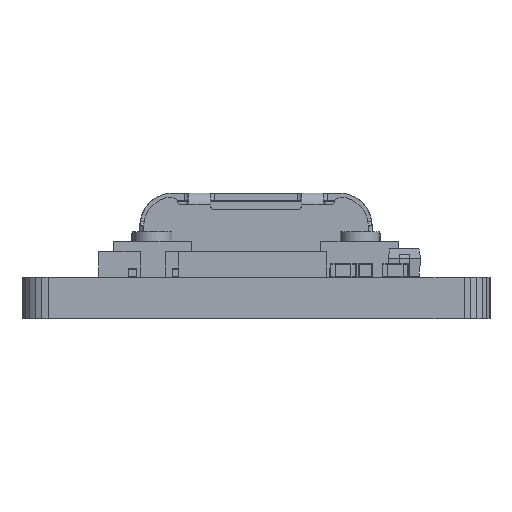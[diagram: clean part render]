
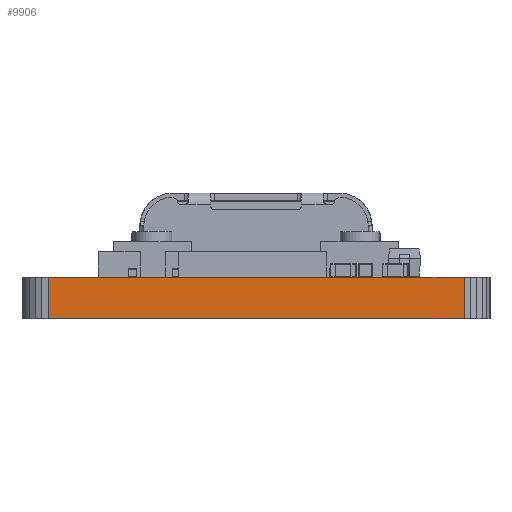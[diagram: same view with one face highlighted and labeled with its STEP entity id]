
A CAD part, front view. The second image highlights one B-rep face of the part: STEP entity #9906.
In plain terms, the highlighted planar face has unit normal (0.001, -1, 0).
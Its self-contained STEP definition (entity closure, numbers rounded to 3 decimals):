
#844=DIRECTION('',(1.,0.001,0.));
#845=VECTOR('',#844,16.01);
#846=CARTESIAN_POINT('',(-15.62,-14.299,0.798));
#847=LINE('',#846,#845);
#3643=DIRECTION('',(1.,0.001,0.));
#3644=VECTOR('',#3643,16.01);
#3645=CARTESIAN_POINT('',(-15.62,-14.299,-0.802));
#3646=LINE('',#3645,#3644);
#3650=DIRECTION('',(0.,0.,-1.));
#3651=VECTOR('',#3650,1.6);
#3652=CARTESIAN_POINT('',(0.39,-14.29,0.798));
#3653=LINE('',#3652,#3651);
#3664=DIRECTION('',(0.,0.,-1.));
#3665=VECTOR('',#3664,1.6);
#3666=CARTESIAN_POINT('',(-15.62,-14.299,0.798));
#3667=LINE('',#3666,#3665);
#6269=CARTESIAN_POINT('',(-15.62,-14.299,0.798));
#6270=VERTEX_POINT('',#6269);
#6271=CARTESIAN_POINT('',(0.39,-14.29,0.798));
#6272=VERTEX_POINT('',#6271);
#6833=CARTESIAN_POINT('',(-15.62,-14.299,-0.802));
#6834=VERTEX_POINT('',#6833);
#6835=CARTESIAN_POINT('',(0.39,-14.29,-0.802));
#6836=VERTEX_POINT('',#6835);
#9894=CARTESIAN_POINT('',(-15.62,-14.299,0.));
#9895=DIRECTION('',(-0.001,1.,0.));
#9896=DIRECTION('',(1.,0.001,0.));
#9897=AXIS2_PLACEMENT_3D('',#9894,#9895,#9896);
#9898=PLANE('',#9897);
#9899=ORIENTED_EDGE('',*,*,#7417,.F.);
#9901=ORIENTED_EDGE('',*,*,#9900,.F.);
#9902=ORIENTED_EDGE('',*,*,#8050,.T.);
#9903=ORIENTED_EDGE('',*,*,#9887,.T.);
#9904=EDGE_LOOP('',(#9899,#9901,#9902,#9903));
#9905=FACE_OUTER_BOUND('',#9904,.F.);
#9906=ADVANCED_FACE('',(#9905),#9898,.F.);
#7417=EDGE_CURVE('',#6834,#6836,#3646,.T.);
#8050=EDGE_CURVE('',#6270,#6272,#847,.T.);
#9887=EDGE_CURVE('',#6272,#6836,#3653,.T.);
#9900=EDGE_CURVE('',#6270,#6834,#3667,.T.);
